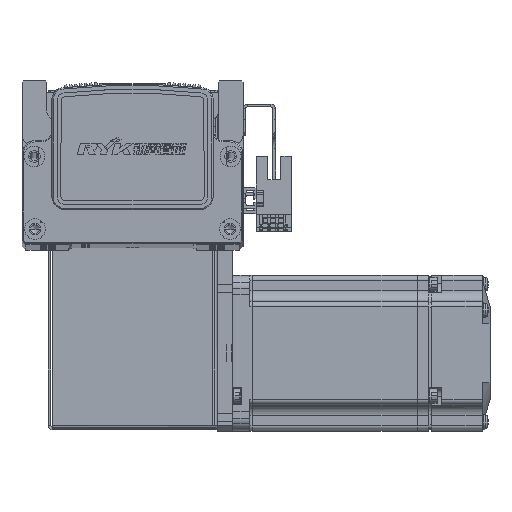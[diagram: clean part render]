
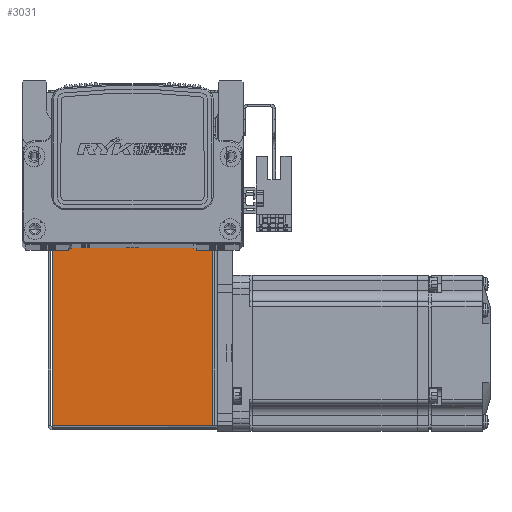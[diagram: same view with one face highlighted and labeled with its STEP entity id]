
A CAD part, top view. The second image highlights one B-rep face of the part: STEP entity #3031.
In plain terms, the highlighted planar face has unit normal (0, 0, 1).
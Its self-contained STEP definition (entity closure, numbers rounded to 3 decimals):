
#3031 = ADVANCED_FACE ( 'NONE', ( #43685 ), #31456, .F. ) ;
#14601 = EDGE_CURVE ( 'NONE', #62238, #62229, #50029, .T. ) ;
#14602 = EDGE_CURVE ( 'NONE', #62248, #62229, #50024, .T. ) ;
#14612 = EDGE_CURVE ( 'NONE', #43804, #62248, #50031, .T. ) ;
#14677 = EDGE_CURVE ( 'NONE', #43804, #62238, #50140, .T. ) ;
#16685 = EDGE_LOOP ( 'NONE', ( #66448, #66220, #66434, #66356 ) ) ;
#19378 = CARTESIAN_POINT ( 'NONE',  ( -30.793, 72.5, 35. ) ) ;
#19402 = CARTESIAN_POINT ( 'NONE',  ( 30.763, 72.5, 35. ) ) ;
#19433 = CARTESIAN_POINT ( 'NONE',  ( -30.793, 0.737, 35. ) ) ;
#31456 = PLANE ( 'NONE',  #38430 ) ;
#31472 = DIRECTION ( 'NONE',  ( 0., 0., -1. ) ) ;
#31481 = DIRECTION ( 'NONE',  ( -1., 0., 0. ) ) ;
#31495 = CARTESIAN_POINT ( 'NONE',  ( 0., 0., 35. ) ) ;
#38430 = AXIS2_PLACEMENT_3D ( 'NONE', #31495, #31472, #31481 ) ;
#43685 = FACE_OUTER_BOUND ( 'NONE', #16685, .T. ) ;
#43804 = VERTEX_POINT ( 'NONE', #56375 ) ;
#50023 = VECTOR ( 'NONE', #58785, 1000. ) ;
#50024 = LINE ( 'NONE', #58817, #50049 ) ;
#50025 = VECTOR ( 'NONE', #58821, 1000. ) ;
#50029 = LINE ( 'NONE', #58797, #50023 ) ;
#50031 = LINE ( 'NONE', #58820, #50025 ) ;
#50049 = VECTOR ( 'NONE', #58791, 1000. ) ;
#50140 = LINE ( 'NONE', #59030, #50144 ) ;
#50144 = VECTOR ( 'NONE', #59043, 1000. ) ;
#56375 = CARTESIAN_POINT ( 'NONE',  ( 30.763, 0.737, 35. ) ) ;
#58785 = DIRECTION ( 'NONE',  ( 0., 1., 0. ) ) ;
#58791 = DIRECTION ( 'NONE',  ( -1., 0., 0. ) ) ;
#58797 = CARTESIAN_POINT ( 'NONE',  ( -30.793, 0., 35. ) ) ;
#58817 = CARTESIAN_POINT ( 'NONE',  ( 0., 72.5, 35. ) ) ;
#58820 = CARTESIAN_POINT ( 'NONE',  ( 30.763, 0.737, 35. ) ) ;
#58821 = DIRECTION ( 'NONE',  ( 0., 1., 0. ) ) ;
#59030 = CARTESIAN_POINT ( 'NONE',  ( -32.5, 0.737, 35. ) ) ;
#59043 = DIRECTION ( 'NONE',  ( -1., 0., 0. ) ) ;
#62229 = VERTEX_POINT ( 'NONE', #19378 ) ;
#62238 = VERTEX_POINT ( 'NONE', #19433 ) ;
#62248 = VERTEX_POINT ( 'NONE', #19402 ) ;
#66220 = ORIENTED_EDGE ( 'NONE', *, *, #14602, .T. ) ;
#66356 = ORIENTED_EDGE ( 'NONE', *, *, #14677, .F. ) ;
#66434 = ORIENTED_EDGE ( 'NONE', *, *, #14601, .F. ) ;
#66448 = ORIENTED_EDGE ( 'NONE', *, *, #14612, .T. ) ;
